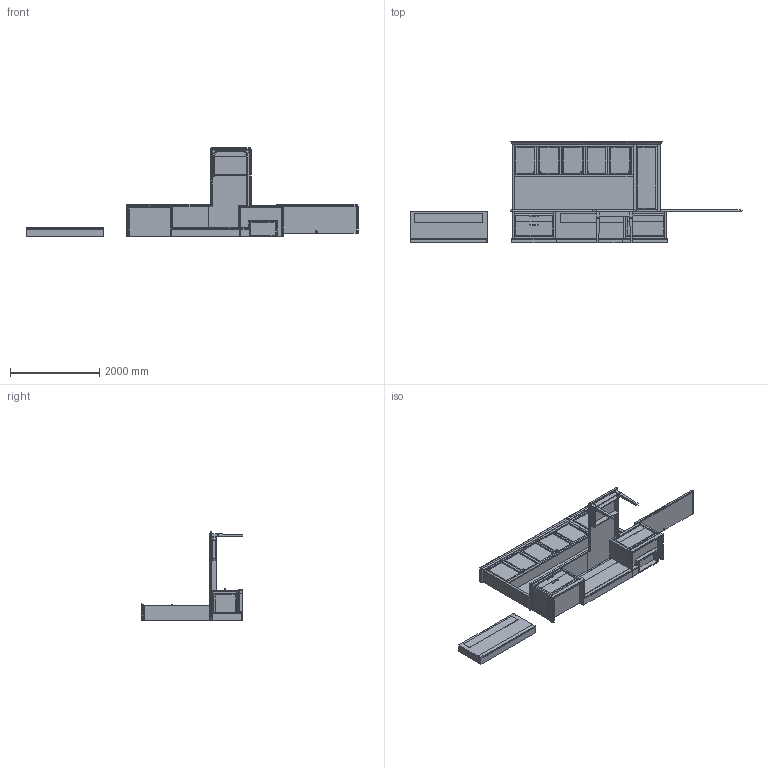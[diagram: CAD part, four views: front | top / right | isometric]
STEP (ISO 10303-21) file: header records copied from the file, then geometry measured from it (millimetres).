
FILE_DESCRIPTION(/* description */ ('','CAx-IF Rec.Pracs.---Representation and Presentation of Product Manufacturing Information (PMI)---4.0---2014-10-13'),/* implementation_level */ '2;1');
FILE_NAME(/* name */ 'PRIVATE OFFICE_CAMBRIDGE 3.stp',/* time_stamp */ '2024-12-08T11:19:34-05:00',/* author */ ('mbowman'),/* organization */ (''),/* preprocessor_version */ 'ST-DEVELOPER v19.2',/* originating_system */ 'Autodesk Inventor 2023',/* authorisation */ '');
FILE_SCHEMA (('AP242_MANAGED_MODEL_BASED_3D_ENGINEERING_MIM_LF { 1 0 10303 442 1 1 4 }'));
Length unit declared in the file: inch
Products named in the file (10): CCN^OFFICE_LAYOUT 4 LEFT; CCN^BRIGHTON_L4-RETURN KNEE WALL-PARTS SOLID; ART DECCO^GLAM-HAFELE 110_34_286; CCN^BRIGHTON_L4- RIGHT END WARDORBE-END DOOR PARTS SOLID; CCN^BRIGHTON_L4-LT RETURN TOP-PARTS SOLID; CCN^BRIGHTON_L4-36 LATERA FILE-LEFT PED PARTS SOLID; CCN^BRIGHTON_L4 30x78 TABLE DESK-PARTS SOLID; CCN^BRIGHTON_L4 HIGH RISE-5 DOOR SOLID ASSEMBLY; CCN^BRIGHTON_L4 HIGH RISE-5 DOOR PARTS SOLID; CCN^BRIGHTON_36x84 TABLE DESK-PULL
Assembly tree (14 placements, depth 3):
  CCN^OFFICE_LAYOUT 4 LEFT
    CCN^BRIGHTON_L4-RETURN KNEE WALL-PARTS SOLID
    ART DECCO^GLAM-HAFELE 110_34_286  x2
    CCN^BRIGHTON_L4- RIGHT END WARDORBE-END DOOR PARTS SOLID
    CCN^BRIGHTON_L4-LT RETURN TOP-PARTS SOLID
    CCN^BRIGHTON_L4-36 LATERA FILE-LEFT PED PARTS SOLID
    CCN^BRIGHTON_L4 30x78 TABLE DESK-PARTS SOLID
    CCN^BRIGHTON_L4 HIGH RISE-5 DOOR SOLID ASSEMBLY
      CCN^BRIGHTON_L4 HIGH RISE-5 DOOR PARTS SOLID
      CCN^BRIGHTON_36x84 TABLE DESK-PULL  x5
Bounding box: 7429.52 x 2279.65 x 1981.19 mm (x, y, z)
Volume: 705509759.8 mm3; surface area: 64390048.1 mm2
Topology: 103 solids, 103 shells, 926 faces, 1961 edges, 1245 vertices
Faces by surface type: plane 804, cylinder 83, torus 35, cone 4
Full cylindrical faces by diameter (mm): 21 x5, 25 x5, 48.26 x2
Entity records: 30074 total; most frequent: CARTESIAN_POINT 6699, DIRECTION 4121, ORIENTED_EDGE 3778, EDGE_CURVE 1889, LINE 1713, VECTOR 1713, STYLED_ITEM 1597, AXIS2_PLACEMENT_3D 1204
